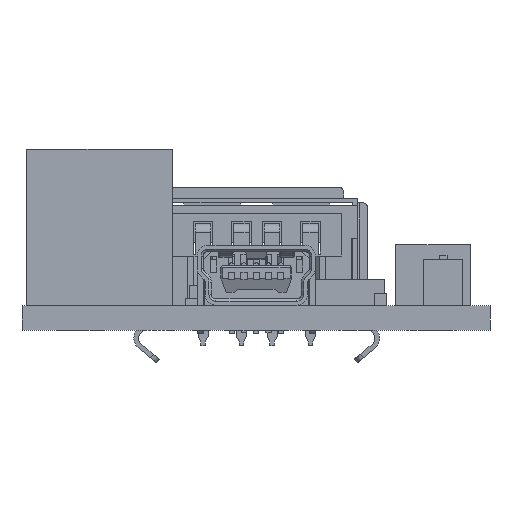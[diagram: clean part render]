
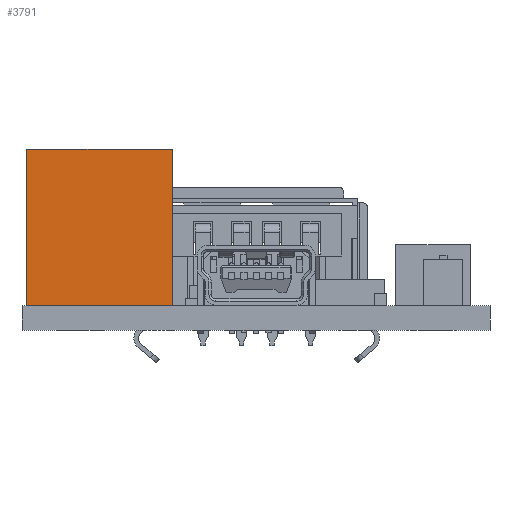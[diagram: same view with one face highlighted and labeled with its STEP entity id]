
A CAD part, front view. The second image highlights one B-rep face of the part: STEP entity #3791.
In plain terms, the highlighted planar face has unit normal (0, -1, 0).
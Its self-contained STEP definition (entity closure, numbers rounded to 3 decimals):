
#3791 = ADVANCED_FACE('',(#3792),#3806,.F.);
#3792 = FACE_BOUND('',#3793,.F.);
#3793 = EDGE_LOOP('',(#3794,#3829,#3857,#3885));
#3794 = ORIENTED_EDGE('',*,*,#3795,.T.);
#3795 = EDGE_CURVE('',#3796,#3798,#3800,.T.);
#3796 = VERTEX_POINT('',#3797);
#3797 = CARTESIAN_POINT('',(-4.75,-10.916,0.));
#3798 = VERTEX_POINT('',#3799);
#3799 = CARTESIAN_POINT('',(-4.75,-10.916,10.2));
#3800 = SURFACE_CURVE('',#3801,(#3805,#3817),.PCURVE_S1.);
#3801 = LINE('',#3802,#3803);
#3802 = CARTESIAN_POINT('',(-4.75,-10.916,0.));
#3803 = VECTOR('',#3804,1.);
#3804 = DIRECTION('',(0.,0.,1.));
#3805 = PCURVE('',#3806,#3811);
#3806 = PLANE('',#3807);
#3807 = AXIS2_PLACEMENT_3D('',#3808,#3809,#3810);
#3808 = CARTESIAN_POINT('',(-4.75,-10.916,0.));
#3809 = DIRECTION('',(0.,1.,0.));
#3810 = DIRECTION('',(1.,0.,0.));
#3811 = DEFINITIONAL_REPRESENTATION('',(#3812),#3816);
#3812 = LINE('',#3813,#3814);
#3813 = CARTESIAN_POINT('',(0.,0.));
#3814 = VECTOR('',#3815,1.);
#3815 = DIRECTION('',(0.,-1.));
#3816 = ( GEOMETRIC_REPRESENTATION_CONTEXT(2) 
PARAMETRIC_REPRESENTATION_CONTEXT() REPRESENTATION_CONTEXT('2D SPACE',''
  ) );
#3817 = PCURVE('',#3818,#3823);
#3818 = PLANE('',#3819);
#3819 = AXIS2_PLACEMENT_3D('',#3820,#3821,#3822);
#3820 = CARTESIAN_POINT('',(-4.75,10.916,0.));
#3821 = DIRECTION('',(1.,0.,0.));
#3822 = DIRECTION('',(0.,-1.,0.));
#3823 = DEFINITIONAL_REPRESENTATION('',(#3824),#3828);
#3824 = LINE('',#3825,#3826);
#3825 = CARTESIAN_POINT('',(21.832,0.));
#3826 = VECTOR('',#3827,1.);
#3827 = DIRECTION('',(0.,-1.));
#3828 = ( GEOMETRIC_REPRESENTATION_CONTEXT(2) 
PARAMETRIC_REPRESENTATION_CONTEXT() REPRESENTATION_CONTEXT('2D SPACE',''
  ) );
#3829 = ORIENTED_EDGE('',*,*,#3830,.T.);
#3830 = EDGE_CURVE('',#3798,#3831,#3833,.T.);
#3831 = VERTEX_POINT('',#3832);
#3832 = CARTESIAN_POINT('',(4.75,-10.916,10.2));
#3833 = SURFACE_CURVE('',#3834,(#3838,#3845),.PCURVE_S1.);
#3834 = LINE('',#3835,#3836);
#3835 = CARTESIAN_POINT('',(-4.75,-10.916,10.2));
#3836 = VECTOR('',#3837,1.);
#3837 = DIRECTION('',(1.,0.,0.));
#3838 = PCURVE('',#3806,#3839);
#3839 = DEFINITIONAL_REPRESENTATION('',(#3840),#3844);
#3840 = LINE('',#3841,#3842);
#3841 = CARTESIAN_POINT('',(0.,-10.2));
#3842 = VECTOR('',#3843,1.);
#3843 = DIRECTION('',(1.,0.));
#3844 = ( GEOMETRIC_REPRESENTATION_CONTEXT(2) 
PARAMETRIC_REPRESENTATION_CONTEXT() REPRESENTATION_CONTEXT('2D SPACE',''
  ) );
#3845 = PCURVE('',#3846,#3851);
#3846 = PLANE('',#3847);
#3847 = AXIS2_PLACEMENT_3D('',#3848,#3849,#3850);
#3848 = CARTESIAN_POINT('',(-4.75,-10.916,10.2));
#3849 = DIRECTION('',(0.,0.,-1.));
#3850 = DIRECTION('',(-1.,0.,0.));
#3851 = DEFINITIONAL_REPRESENTATION('',(#3852),#3856);
#3852 = LINE('',#3853,#3854);
#3853 = CARTESIAN_POINT('',(0.,0.));
#3854 = VECTOR('',#3855,1.);
#3855 = DIRECTION('',(-1.,0.));
#3856 = ( GEOMETRIC_REPRESENTATION_CONTEXT(2) 
PARAMETRIC_REPRESENTATION_CONTEXT() REPRESENTATION_CONTEXT('2D SPACE',''
  ) );
#3857 = ORIENTED_EDGE('',*,*,#3858,.F.);
#3858 = EDGE_CURVE('',#3859,#3831,#3861,.T.);
#3859 = VERTEX_POINT('',#3860);
#3860 = CARTESIAN_POINT('',(4.75,-10.916,0.));
#3861 = SURFACE_CURVE('',#3862,(#3866,#3873),.PCURVE_S1.);
#3862 = LINE('',#3863,#3864);
#3863 = CARTESIAN_POINT('',(4.75,-10.916,0.));
#3864 = VECTOR('',#3865,1.);
#3865 = DIRECTION('',(0.,0.,1.));
#3866 = PCURVE('',#3806,#3867);
#3867 = DEFINITIONAL_REPRESENTATION('',(#3868),#3872);
#3868 = LINE('',#3869,#3870);
#3869 = CARTESIAN_POINT('',(9.5,0.));
#3870 = VECTOR('',#3871,1.);
#3871 = DIRECTION('',(0.,-1.));
#3872 = ( GEOMETRIC_REPRESENTATION_CONTEXT(2) 
PARAMETRIC_REPRESENTATION_CONTEXT() REPRESENTATION_CONTEXT('2D SPACE',''
  ) );
#3873 = PCURVE('',#3874,#3879);
#3874 = PLANE('',#3875);
#3875 = AXIS2_PLACEMENT_3D('',#3876,#3877,#3878);
#3876 = CARTESIAN_POINT('',(4.75,-10.916,0.));
#3877 = DIRECTION('',(-1.,0.,0.));
#3878 = DIRECTION('',(0.,1.,0.));
#3879 = DEFINITIONAL_REPRESENTATION('',(#3880),#3884);
#3880 = LINE('',#3881,#3882);
#3881 = CARTESIAN_POINT('',(0.,0.));
#3882 = VECTOR('',#3883,1.);
#3883 = DIRECTION('',(0.,-1.));
#3884 = ( GEOMETRIC_REPRESENTATION_CONTEXT(2) 
PARAMETRIC_REPRESENTATION_CONTEXT() REPRESENTATION_CONTEXT('2D SPACE',''
  ) );
#3885 = ORIENTED_EDGE('',*,*,#3886,.F.);
#3886 = EDGE_CURVE('',#3796,#3859,#3887,.T.);
#3887 = SURFACE_CURVE('',#3888,(#3892,#3899),.PCURVE_S1.);
#3888 = LINE('',#3889,#3890);
#3889 = CARTESIAN_POINT('',(-4.75,-10.916,0.));
#3890 = VECTOR('',#3891,1.);
#3891 = DIRECTION('',(1.,0.,0.));
#3892 = PCURVE('',#3806,#3893);
#3893 = DEFINITIONAL_REPRESENTATION('',(#3894),#3898);
#3894 = LINE('',#3895,#3896);
#3895 = CARTESIAN_POINT('',(0.,0.));
#3896 = VECTOR('',#3897,1.);
#3897 = DIRECTION('',(1.,0.));
#3898 = ( GEOMETRIC_REPRESENTATION_CONTEXT(2) 
PARAMETRIC_REPRESENTATION_CONTEXT() REPRESENTATION_CONTEXT('2D SPACE',''
  ) );
#3899 = PCURVE('',#3900,#3905);
#3900 = PLANE('',#3901);
#3901 = AXIS2_PLACEMENT_3D('',#3902,#3903,#3904);
#3902 = CARTESIAN_POINT('',(-4.75,-10.916,0.));
#3903 = DIRECTION('',(0.,0.,-1.));
#3904 = DIRECTION('',(-1.,0.,0.));
#3905 = DEFINITIONAL_REPRESENTATION('',(#3906),#3910);
#3906 = LINE('',#3907,#3908);
#3907 = CARTESIAN_POINT('',(0.,0.));
#3908 = VECTOR('',#3909,1.);
#3909 = DIRECTION('',(-1.,0.));
#3910 = ( GEOMETRIC_REPRESENTATION_CONTEXT(2) 
PARAMETRIC_REPRESENTATION_CONTEXT() REPRESENTATION_CONTEXT('2D SPACE',''
  ) );
